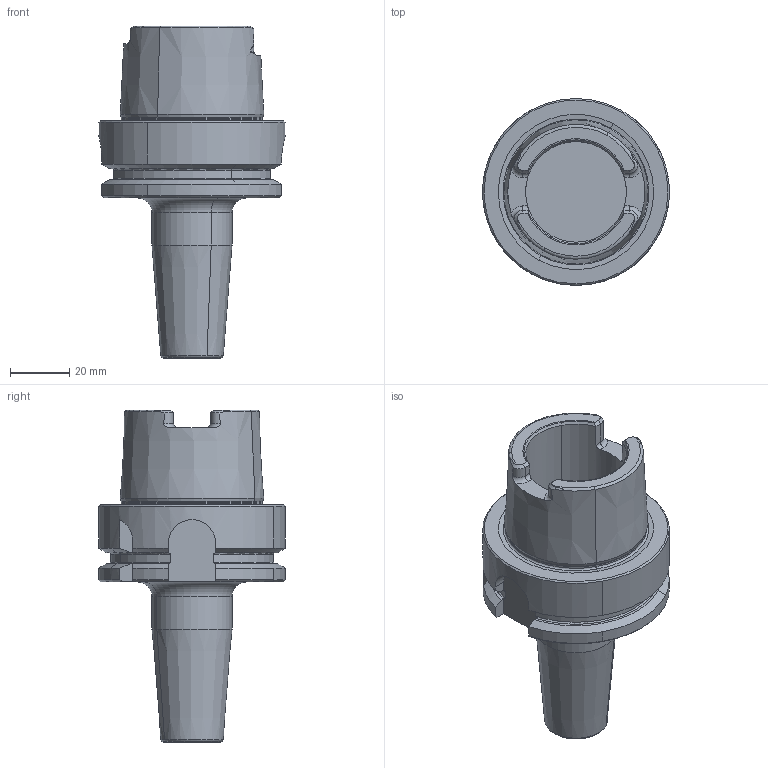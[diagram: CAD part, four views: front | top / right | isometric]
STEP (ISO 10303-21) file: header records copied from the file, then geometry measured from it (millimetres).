
FILE_DESCRIPTION(('CATIA V5 STEP','CAx-IF Rec.Pracs.--- Model Styling and Organization---1.2---2011-12-15'),'2;1');
FILE_NAME('\\nas01\drv1\utils\eitdev\rte\eit\transmagicconvert\db\out\4503901 L.stp','2014-03-27T12:44:58+00:00',('none'),('none'),'CATIA Version 5 Release 21 SP 5 (IN-10)','CATIA V5 STEP AP214','none');
FILE_SCHEMA(('AUTOMOTIVE_DESIGN { 1 0 10303 214 1 1 1 1 }'));
Length unit declared in the file: millimetre
Products named in the file (1): 60795814_0 Holder-Tool HSK A 63 SRKIN 8X 80
Bounding box: 63 x 63 x 112 mm (x, y, z)
Volume: 115993.4 mm3; surface area: 25551.3 mm2
Topology: 1 solids, 1 shells, 142 faces, 361 edges, 224 vertices
Faces by surface type: plane 41, cone 37, cylinder 34, torus 30
Entity records: 4331 total; most frequent: CARTESIAN_POINT 1303, ORIENTED_EDGE 722, DIRECTION 450, EDGE_CURVE 361, AXIS2_PLACEMENT_3D 243, VERTEX_POINT 224, CIRCLE 159, EDGE_LOOP 145
